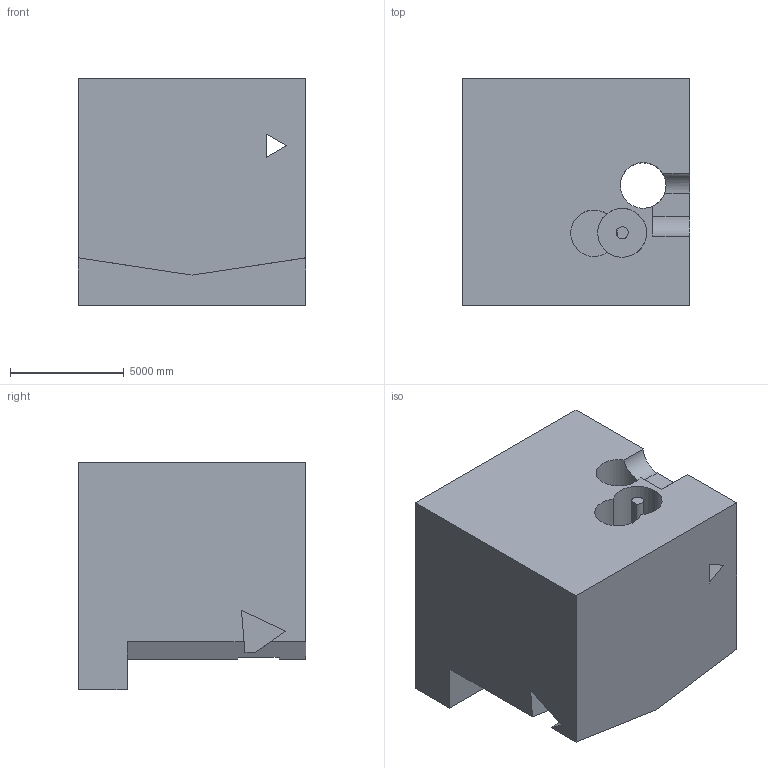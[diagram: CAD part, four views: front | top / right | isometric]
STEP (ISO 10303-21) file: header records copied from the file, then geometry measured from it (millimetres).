
FILE_DESCRIPTION (( 'STEP AP203' ), '1' );
FILE_NAME ('707.STEP', '2022-08-04T15:42:37', ( 'user' ), ( '' ), 'SwSTEP 2.0', 'SolidWorks 2021', '' );
FILE_SCHEMA (( 'CONFIG_CONTROL_DESIGN' ));
Length unit declared in the file: centimetre
Products named in the file (1): 707
Bounding box: 10000 x 10000 x 10000 mm (x, y, z)
Volume: 803439225199 mm3; surface area: 694382017.8 mm2
Topology: 1 solids, 1 shells, 36 faces, 105 edges, 70 vertices
Faces by surface type: plane 24, cylinder 12
Entity records: 1347 total; most frequent: CARTESIAN_POINT 307, ORIENTED_EDGE 210, DIRECTION 193, EDGE_CURVE 105, VERTEX_POINT 70, LINE 69, VECTOR 69, AXIS2_PLACEMENT_3D 62
